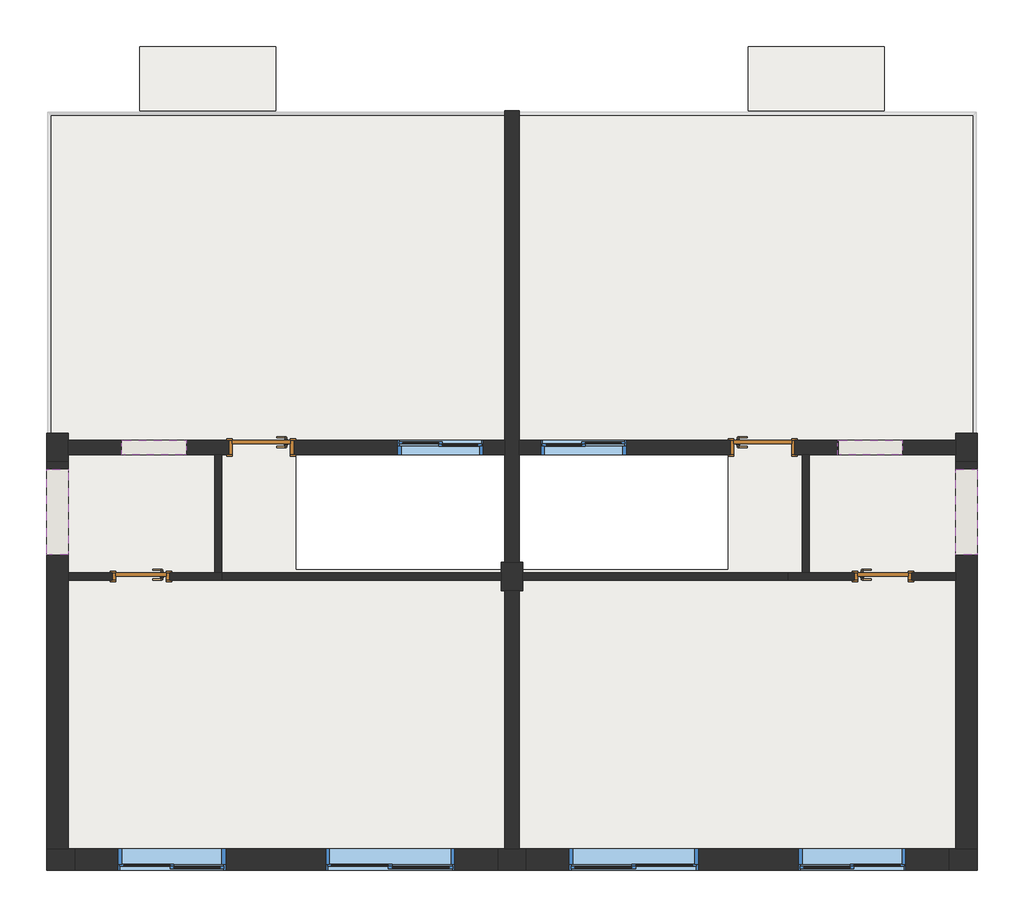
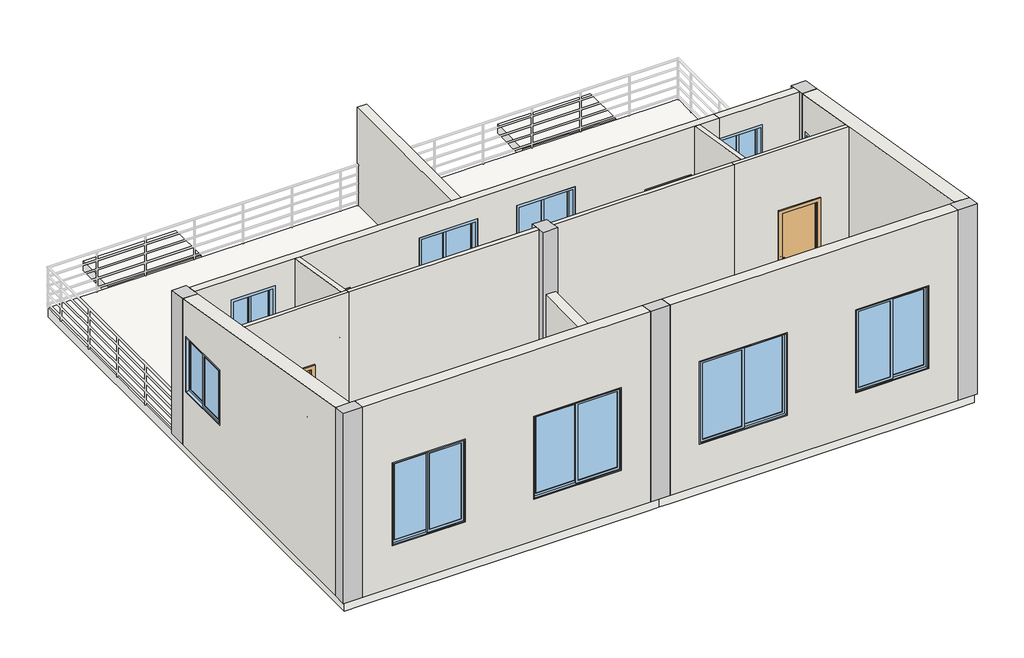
# One storey, part 1 of 2: 12 walls, 10 windows, 6 columns, 4 doors, 2 slabs.
"""IFC4 building model written with IfcOpenShell, lengths in millimetres."""

from ifc_helpers import new_model, si_unit, frame, origin, place, context, project, spatial, polyline, outline, extrude, faceted_brep, transform, mapped, element, save
from components import m1_9f206538, m1_5c1b1160, m3_1d156f18, m3_482f5408, c1_90df00ba, c1_e04ce6eb, c2_95beaf48, c2_33a41daa, c3_90035730, c3_8dbe8f69, c4_cd7c24a5, c4_2700ab05, c5_a65849cb, c5_3e3c06b4

model = new_model("IFC4")

# Units and contexts
model_context = context("Model", 3, world=origin())
ifc_project = project(units=[si_unit("LENGTHUNIT", "METRE", prefix="MILLI")], contexts=[model_context])

# Site, building, storey
site = spatial("IfcSite", under=ifc_project)
building = spatial("IfcBuilding", under=site)
storey = spatial("IfcBuildingStorey", under=building, Name="标高 3", Elevation=6000.0)

# Columns
placement = place(None, origin())
element("IfcColumn", 1, ObjectType="混凝土 - 矩形 - 柱 : Z1", at=placement, inside=storey, context=model_context, shape_type="Brep", body=[
    faceted_brep([(-8339.5311174, -4969.5294667, 6000.0), (-8039.5311174, -4969.5294667, 6000.0), (-7939.5311174, -4969.5294667, 6000.0), (-7939.5311174, -5269.5294667, 6000.0), (-8339.5311174, -5269.5294667, 6000.0), (-8339.5311174, -4969.5294667, 10080.3242392), (-8039.5311174, -4969.5294667, 10080.3242392), (-7939.5311174, -4969.5294667, 10080.3242392), (-7939.5311174, -5269.5294667, 10131.3347697), (-8339.5311174, -5269.5294667, 10131.3347697)], [[[0, 1, 2, 3, 4]], [[2, 1, 0, 5, 6, 7]], [[3, 2, 7, 8]], [[4, 3, 8, 9]], [[0, 4, 9, 5]], [[7, 6, 5, 9, 8]]]),
])
element("IfcColumn", 2, ObjectType="混凝土 - 矩形 - 柱 : Z1", at=placement, inside=storey, context=model_context, shape_type="Brep", body=[
    faceted_brep([(-8039.5311174, 830.4705333, 6000.0), (-8039.5311174, 730.4705333, 6000.0), (-8039.5311174, 530.4705333, 6000.0), (-8039.5311174, 430.4705333, 6000.0), (-8339.5311174, 430.4705333, 6000.0), (-8339.5311174, 830.4705333, 6000.0), (-8039.5311174, 830.4705333, 9094.1206487), (-8039.5311174, 730.4705333, 9111.1241588), (-8039.5311174, 530.4705333, 9145.1311792), (-8039.5311174, 430.4705333, 9162.1346894), (-8339.5311174, 430.4705333, 9162.1346894), (-8339.5311174, 830.4705333, 9094.1206487)], [[[0, 1, 2, 3, 4, 5]], [[3, 2, 1, 0, 6, 7, 8, 9]], [[4, 3, 9, 10]], [[5, 4, 10, 11]], [[0, 5, 11, 6]], [[9, 8, 7, 6, 11, 10]]]),
])
element("IfcColumn", 3, ObjectType="混凝土 - 矩形 - 柱 : Z1", at=placement, inside=storey, context=model_context, shape_type="Brep", body=[
    faceted_brep([(-1689.5311174, -969.5294667, 6000.0), (-1689.5311174, -1119.5294667, 6000.0), (-1689.5311174, -1219.5294667, 6000.0), (-1689.5311174, -1369.5294667, 6000.0), (-1739.5311174, -1369.5294667, 6000.0), (-1939.5311174, -1369.5294667, 6000.0), (-1989.5311174, -1369.5294667, 6000.0), (-1989.5311174, -1219.5294667, 6000.0), (-1989.5311174, -1119.5294667, 6000.0), (-1989.5311174, -969.5294667, 6000.0), (-1939.5311174, -969.5294667, 6000.0), (-1739.5311174, -969.5294667, 6000.0), (-1689.5311174, -969.5294667, 9400.1838319), (-1689.5311174, -1119.5294667, 9425.6890972), (-1689.5311174, -1219.5294667, 9442.6926074), (-1689.5311174, -1369.5294667, 9468.1978727), (-1989.5311174, -1369.5294667, 9468.1978727), (-1989.5311174, -1219.5294667, 9442.6926074), (-1989.5311174, -1119.5294667, 9425.6890972), (-1989.5311174, -969.5294667, 9400.1838319)], [[[0, 1, 2, 3, 4, 5, 6, 7, 8, 9, 10, 11]], [[3, 2, 1, 0, 12, 13, 14, 15]], [[6, 5, 4, 3, 15, 16]], [[9, 8, 7, 6, 16, 17, 18, 19]], [[0, 11, 10, 9, 19, 12]], [[15, 14, 13, 12, 19, 18, 17, 16]]]),
])
element("IfcColumn", 4, ObjectType="混凝土 - 矩形 - 柱 : Z1", at=placement, inside=storey, context=model_context, shape_type="Brep", body=[
    faceted_brep([(-2039.5311174, -4969.5294667, 6000.0), (-1939.5311174, -4969.5294667, 6000.0), (-1739.5311174, -4969.5294667, 6000.0), (-1639.5311174, -4969.5294667, 6000.0), (-1639.5311174, -5269.5294667, 6000.0), (-2039.5311174, -5269.5294667, 6000.0), (-2039.5311174, -4969.5294667, 10080.3242392), (-1639.5311174, -4969.5294667, 10080.3242392), (-1639.5311174, -5269.5294667, 10131.3347697), (-2039.5311174, -5269.5294667, 10131.3347697)], [[[0, 1, 2, 3, 4, 5]], [[3, 2, 1, 0, 6, 7]], [[4, 3, 7, 8]], [[5, 4, 8, 9]], [[0, 5, 9, 6]], [[7, 6, 9, 8]]]),
])
element("IfcColumn", 5, ObjectType="混凝土 - 矩形 - 柱 : Z1", at=placement, inside=storey, context=model_context, shape_type="Brep", body=[
    faceted_brep([(4660.4688826, -4969.5294667, 6000.0), (4660.4688826, -5269.5294667, 6000.0), (4260.4688826, -5269.5294667, 6000.0), (4260.4688826, -4969.5294667, 6000.0), (4360.4688826, -4969.5294667, 6000.0), (4260.4688826, -4969.5294667, 10080.3242392), (4360.4688826, -4969.5294667, 10080.3242392), (4660.4688826, -4969.5294667, 10080.3242392), (4260.4688826, -5269.5294667, 10131.3347697), (4660.4688826, -5269.5294667, 10131.3347697)], [[[0, 1, 2, 3, 4]], [[0, 4, 3, 5, 6, 7]], [[3, 2, 8, 5]], [[2, 1, 9, 8]], [[1, 0, 7, 9]], [[7, 6, 5, 8, 9]]]),
])
element("IfcColumn", 6, ObjectType="混凝土 - 矩形 - 柱 : Z1", at=placement, inside=storey, context=model_context, shape_type="Brep", body=[
    faceted_brep([(4360.4688826, 830.4705333, 6000.0), (4660.4688826, 830.4705333, 6000.0), (4660.4688826, 430.4705333, 6000.0), (4360.4688826, 430.4705333, 6000.0), (4360.4688826, 530.4705333, 6000.0), (4360.4688826, 730.4705333, 6000.0), (4360.4688826, 430.4705333, 9162.1346894), (4360.4688826, 530.4705333, 9145.1311792), (4360.4688826, 730.4705333, 9111.1241588), (4360.4688826, 830.4705333, 9094.1206487), (4660.4688826, 430.4705333, 9162.1346894), (4660.4688826, 830.4705333, 9094.1206487)], [[[0, 1, 2, 3, 4, 5]], [[0, 5, 4, 3, 6, 7, 8, 9]], [[3, 2, 10, 6]], [[2, 1, 11, 10]], [[1, 0, 9, 11]], [[9, 8, 7, 6, 10, 11]]]),
])

# Doors
m1_shape = m1_9f206538(model_context)
element("IfcDoor", 7, ObjectType="单嵌板木门 1 : M1", at=placement, inside=storey, context=model_context, shape_type="MappedRepresentation", body=[
    mapped(m1_shape, transform((3340.4688826, -1169.5294667, 6000.0), x_axis=(1.0, 0.0, 0.0), y_axis=(0.0, 1.0, 0.0), z_axis=(0.0, 0.0, 1.0))),
])
m1_2_shape = m1_5c1b1160(model_context)
element("IfcDoor", 8, ObjectType="单嵌板木门 1 : M1", at=placement, inside=storey, context=model_context, shape_type="MappedRepresentation", body=[
    mapped(m1_2_shape, transform((-7019.5311174, -1169.5294667, 6000.0), x_axis=(-1.0, 0.0, 0.0), y_axis=(0.0, -1.0, 0.0), z_axis=(0.0, 0.0, 1.0))),
])
m3_shape = m3_1d156f18(model_context)
element("IfcDoor", 9, ObjectType="单嵌板木门 1 : M3", at=placement, inside=storey, context=model_context, shape_type="MappedRepresentation", body=[
    mapped(m3_shape, transform((-5339.5311174, 630.4705333, 6000.0), x_axis=(-1.0, 0.0, 0.0), y_axis=(0.0, -1.0, 0.0), z_axis=(0.0, 0.0, 1.0))),
])
m3_2_shape = m3_482f5408(model_context)
element("IfcDoor", 10, ObjectType="单嵌板木门 1 : M3", at=placement, inside=storey, context=model_context, shape_type="MappedRepresentation", body=[
    mapped(m3_2_shape, transform((1660.4688826, 630.4705333, 6000.0), x_axis=(1.0, 0.0, 0.0), y_axis=(0.0, 1.0, 0.0), z_axis=(0.0, 0.0, 1.0))),
])

# Slabs
element("IfcSlab", 11, ObjectType="200大理石地板", at=placement, inside=storey, context=model_context, shape_type="Brep", body=[
    faceted_brep([(-8299.5311174, 5290.4705333, 5800.0), (-8039.5311174, 5290.4705333, 5800.0), (-4089.5311174, 5290.4705333, 5800.0), (-3789.5311174, 5290.4705333, 5800.0), (-1839.5311174, 5290.4705333, 5800.0), (110.4688826, 5290.4705333, 5800.0), (410.4688826, 5290.4705333, 5800.0), (4360.4688826, 5290.4705333, 5800.0), (4620.4688826, 5290.4705333, 5800.0), (4620.4688826, 4930.4705333, 5800.0), (4620.4688826, 830.4705333, 5800.0), (4620.4688826, 430.4705333, 5800.0), (4620.4688826, -4969.5294667, 5800.0), (4620.4688826, -5229.5294667, 5800.0), (4260.4688826, -5229.5294667, 5800.0), (-1639.5311174, -5229.5294667, 5800.0), (-1839.5311174, -5229.5294667, 5800.0), (-2039.5311174, -5229.5294667, 5800.0), (-7939.5311174, -5229.5294667, 5800.0), (-8299.5311174, -5229.5294667, 5800.0), (-8299.5311174, -4969.5294667, 5800.0), (-8299.5311174, 430.4705333, 5800.0), (-8299.5311174, 830.4705333, 5800.0), (-8299.5311174, 4930.4705333, 5800.0), (-1939.5311174, 530.4705333, 5800.0), (-3989.5311174, 530.4705333, 5800.0), (-4854.5311174, 530.4705333, 5800.0), (-4854.5311174, -1069.5294667, 5800.0), (-1989.5311174, -1069.5294667, 5800.0), (-1939.5311174, -1069.5294667, 5800.0), (-1939.5311174, -969.5294667, 5800.0), (-1739.5311174, 530.4705333, 5800.0), (-1739.5311174, -969.5294667, 5800.0), (-1739.5311174, -1069.5294667, 5800.0), (-1689.5311174, -1069.5294667, 5800.0), (1175.4688826, -1069.5294667, 5800.0), (1175.4688826, 530.4705333, 5800.0), (310.4688826, 530.4705333, 5800.0), (-1839.5311174, 5290.4705333, 6000.0), (-3789.5311174, 5290.4705333, 6000.0), (-4089.5311174, 5290.4705333, 6000.0), (-8039.5311174, 5290.4705333, 6000.0), (-8299.5311174, 5290.4705333, 6000.0), (-8299.5311174, 4930.4705333, 6000.0), (-8299.5311174, 830.4705333, 6000.0), (-8299.5311174, 430.4705333, 6000.0), (-8299.5311174, -4969.5294667, 6000.0), (-8299.5311174, -5229.5294667, 6000.0), (-7939.5311174, -5229.5294667, 6000.0), (-2039.5311174, -5229.5294667, 6000.0), (-1839.5311174, -5229.5294667, 6000.0), (-1639.5311174, -5229.5294667, 6000.0), (4260.4688826, -5229.5294667, 6000.0), (4620.4688826, -5229.5294667, 6000.0), (4620.4688826, -4969.5294667, 6000.0), (4620.4688826, 430.4705333, 6000.0), (4620.4688826, 830.4705333, 6000.0), (4620.4688826, 4930.4705333, 6000.0), (4620.4688826, 5290.4705333, 6000.0), (4360.4688826, 5290.4705333, 6000.0), (410.4688826, 5290.4705333, 6000.0), (110.4688826, 5290.4705333, 6000.0), (-4854.5311174, 530.4705333, 6000.0), (-1939.5311174, 530.4705333, 6000.0), (-1939.5311174, -969.5294667, 6000.0), (-1939.5311174, -1069.5294667, 6000.0), (-1989.5311174, -1069.5294667, 6000.0), (-4854.5311174, -1069.5294667, 6000.0), (-1739.5311174, -1069.5294667, 6000.0), (-1739.5311174, -969.5294667, 6000.0), (-1739.5311174, 530.4705333, 6000.0), (1175.4688826, 530.4705333, 6000.0), (1175.4688826, -1069.5294667, 6000.0), (-1689.5311174, -1069.5294667, 6000.0)], [[[0, 1, 2, 3, 4, 5, 6, 7, 8, 9, 10, 11, 12, 13, 14, 15, 16, 17, 18, 19, 20, 21, 22, 23], [24, 25, 26, 27, 28, 29, 30], [31, 32, 33, 34, 35, 36, 37]], [[38, 39, 40, 41, 42, 43, 44, 45, 46, 47, 48, 49, 50, 51, 52, 53, 54, 55, 56, 57, 58, 59, 60, 61], [62, 63, 64, 65, 66, 67], [68, 69, 70, 71, 72, 73]], [[4, 3, 2, 1, 0, 42, 41, 40, 39, 38]], [[8, 7, 6, 5, 4, 38, 61, 60, 59, 58]], [[13, 12, 11, 10, 9, 8, 58, 57, 56, 55, 54, 53]], [[16, 15, 14, 13, 53, 52, 51, 50]], [[19, 18, 17, 16, 50, 49, 48, 47]], [[0, 23, 22, 21, 20, 19, 47, 46, 45, 44, 43, 42]], [[24, 63, 62, 26, 25]], [[26, 62, 67, 27]], [[27, 67, 66, 65, 29, 28]], [[63, 24, 30, 29, 65, 64]], [[31, 70, 69, 68, 33, 32]], [[33, 68, 73, 72, 35, 34]], [[35, 72, 71, 36]], [[70, 31, 37, 36, 71]]]),
])
element("IfcSlab", 12, ObjectType="200大理石地板", at=placement, inside=storey, context=model_context, shape_type="SweptSolid", body=[
    extrude(outline(polyline([(-5139.5311174, 6230.4705333), (-5139.5311174, 5330.4705333), (-7039.5311174, 5330.4705333), (-7039.5311174, 6230.4705333), (-5139.5311174, 6230.4705333)])), frame((0.0, 0.0, 5800.0), z_axis=(0.0, 0.0, 1.0), x_axis=(1.0, 0.0, 0.0)), (0.0, 0.0, 1.0), 200.0),
    extrude(outline(polyline([(1460.4688826, 6230.4705333), (3360.4688826, 6230.4705333), (3360.4688826, 5330.4705333), (1460.4688826, 5330.4705333), (1460.4688826, 6230.4705333)])), frame((0.0, 0.0, 5800.0), z_axis=(0.0, 0.0, 1.0), x_axis=(1.0, 0.0, 0.0)), (0.0, 0.0, 1.0), 200.0),
])

# Walls
element("IfcWall", 13, ObjectType="300外墙", at=placement, inside=storey, context=model_context, shape_type="Brep", body=[
    faceted_brep([(-7939.5311174, -4969.5294667, 6000.0), (-7939.5311174, -4969.5294667, 10080.3242392), (-2039.5311174, -4969.5294667, 10080.3242392), (-2039.5311174, -4969.5294667, 6000.0), (-7339.5311174, -4969.5294667, 8700.0), (-7339.5311174, -4969.5294667, 6900.0), (-5839.5311174, -4969.5294667, 6900.0), (-5839.5311174, -4969.5294667, 8700.0), (-4439.5311174, -4969.5294667, 8700.0), (-4439.5311174, -4969.5294667, 6900.0), (-2639.5311174, -4969.5294667, 6900.0), (-2639.5311174, -4969.5294667, 8700.0), (-7939.5311174, -5269.5294667, 10131.3347697), (-7939.5311174, -5269.5294667, 6000.0), (-2039.5311174, -5269.5294667, 6000.0), (-2039.5311174, -5269.5294667, 10131.3347697), (-7339.5311174, -5269.5294667, 6900.0), (-7339.5311174, -5269.5294667, 8700.0), (-5839.5311174, -5269.5294667, 8700.0), (-5839.5311174, -5269.5294667, 6900.0), (-4439.5311174, -5269.5294667, 6900.0), (-4439.5311174, -5269.5294667, 8700.0), (-2639.5311174, -5269.5294667, 8700.0), (-2639.5311174, -5269.5294667, 6900.0), (-7939.5311174, -5229.5294667, 6000.0), (-2039.5311174, -5229.5294667, 6000.0)], [[[0, 1, 2, 3], [4, 5, 6, 7], [8, 9, 10, 11]], [[12, 13, 14, 15], [16, 17, 18, 19], [20, 21, 22, 23]], [[13, 24, 0, 3, 25, 14]], [[1, 0, 24, 13, 12]], [[3, 2, 15, 14, 25]], [[5, 4, 17, 16]], [[6, 5, 16, 19]], [[7, 6, 19, 18]], [[4, 7, 18, 17]], [[9, 8, 21, 20]], [[10, 9, 20, 23]], [[11, 10, 23, 22]], [[8, 11, 22, 21]], [[1, 12, 15, 2]]]),
])
element("IfcWall", 14, ObjectType="300外墙", at=placement, inside=storey, context=model_context, shape_type="Brep", body=[
    faceted_brep([(-8039.5311174, -4969.5294667, 10080.3242392), (-8039.5311174, -4969.5294667, 6000.0), (-8039.5311174, -1219.5294667, 6000.0), (-8039.5311174, -1119.5294667, 6000.0), (-8039.5311174, 430.4705333, 6000.0), (-8039.5311174, 430.4705333, 9162.1346894), (-8039.5311174, -1119.5294667, 9425.6890972), (-8039.5311174, -1219.5294667, 9442.6926074), (-8039.5311174, 330.4705333, 8400.0), (-8039.5311174, 330.4705333, 7200.0), (-8039.5311174, -869.5294667, 7200.0), (-8039.5311174, -869.5294667, 8400.0), (-8339.5311174, -4969.5294667, 6000.0), (-8339.5311174, -4969.5294667, 10080.3242392), (-8339.5311174, 430.4705333, 9162.1346894), (-8339.5311174, 430.4705333, 6000.0), (-8339.5311174, 330.4705333, 7200.0), (-8339.5311174, 330.4705333, 8400.0), (-8339.5311174, -869.5294667, 8400.0), (-8339.5311174, -869.5294667, 7200.0), (-8299.5311174, -4969.5294667, 6000.0), (-8299.5311174, 430.4705333, 6000.0)], [[[0, 1, 2, 3, 4, 5, 6, 7], [8, 9, 10, 11]], [[12, 13, 14, 15], [16, 17, 18, 19]], [[1, 20, 12, 15, 21, 4, 3, 2]], [[9, 8, 17, 16]], [[10, 9, 16, 19]], [[11, 10, 19, 18]], [[8, 11, 18, 17]], [[12, 20, 1, 0, 13]], [[5, 4, 21, 15, 14]], [[13, 0, 7, 6, 5, 14]]]),
])
element("IfcWall", 15, ObjectType="300外墙", at=placement, inside=storey, context=model_context, shape_type="Brep", body=[
    faceted_brep([(-1639.5311174, -5269.5294667, 10131.3347697), (-1639.5311174, -5269.5294667, 6000.0), (4260.4688826, -5269.5294667, 6000.0), (4260.4688826, -5269.5294667, 10131.3347697), (760.4688826, -5269.5294667, 8700.0), (760.4688826, -5269.5294667, 6900.0), (-1039.5311174, -5269.5294667, 6900.0), (-1039.5311174, -5269.5294667, 8700.0), (3660.4688826, -5269.5294667, 8700.0), (3660.4688826, -5269.5294667, 6900.0), (2160.4688826, -5269.5294667, 6900.0), (2160.4688826, -5269.5294667, 8700.0), (-1639.5311174, -4969.5294667, 6000.0), (-1639.5311174, -4969.5294667, 10080.3242392), (4260.4688826, -4969.5294667, 10080.3242392), (4260.4688826, -4969.5294667, 6000.0), (760.4688826, -4969.5294667, 6900.0), (760.4688826, -4969.5294667, 8700.0), (-1039.5311174, -4969.5294667, 8700.0), (-1039.5311174, -4969.5294667, 6900.0), (3660.4688826, -4969.5294667, 6900.0), (3660.4688826, -4969.5294667, 8700.0), (2160.4688826, -4969.5294667, 8700.0), (2160.4688826, -4969.5294667, 6900.0), (-1639.5311174, -5229.5294667, 6000.0), (4260.4688826, -5229.5294667, 6000.0)], [[[0, 1, 2, 3], [4, 5, 6, 7], [8, 9, 10, 11]], [[12, 13, 14, 15], [16, 17, 18, 19], [20, 21, 22, 23]], [[1, 24, 12, 15, 25, 2]], [[1, 0, 13, 12, 24]], [[3, 2, 25, 15, 14]], [[5, 4, 17, 16]], [[6, 5, 16, 19]], [[7, 6, 19, 18]], [[4, 7, 18, 17]], [[9, 8, 21, 20]], [[10, 9, 20, 23]], [[11, 10, 23, 22]], [[8, 11, 22, 21]], [[13, 0, 3, 14]]]),
])
element("IfcWall", 16, ObjectType="300外墙", at=placement, inside=storey, context=model_context, shape_type="Brep", body=[
    faceted_brep([(4660.4688826, -4969.5294667, 10080.3242392), (4660.4688826, -4969.5294667, 6000.0), (4660.4688826, 430.4705333, 6000.0), (4660.4688826, 430.4705333, 9162.1346894), (4660.4688826, 330.4705333, 8400.0), (4660.4688826, 330.4705333, 7200.0), (4660.4688826, -869.5294667, 7200.0), (4660.4688826, -869.5294667, 8400.0), (4360.4688826, -4969.5294667, 6000.0), (4360.4688826, -4969.5294667, 10080.3242392), (4360.4688826, -1219.5294667, 9442.6926074), (4360.4688826, -1119.5294667, 9425.6890972), (4360.4688826, 430.4705333, 9162.1346894), (4360.4688826, 430.4705333, 6000.0), (4360.4688826, -1119.5294667, 6000.0), (4360.4688826, -1219.5294667, 6000.0), (4360.4688826, 330.4705333, 7200.0), (4360.4688826, 330.4705333, 8400.0), (4360.4688826, -869.5294667, 8400.0), (4360.4688826, -869.5294667, 7200.0), (4620.4688826, -4969.5294667, 6000.0), (4620.4688826, 430.4705333, 6000.0)], [[[0, 1, 2, 3], [4, 5, 6, 7]], [[8, 9, 10, 11, 12, 13, 14, 15], [16, 17, 18, 19]], [[1, 20, 8, 15, 14, 13, 21, 2]], [[5, 4, 17, 16]], [[6, 5, 16, 19]], [[7, 6, 19, 18]], [[4, 7, 18, 17]], [[8, 20, 1, 0, 9]], [[3, 2, 21, 13, 12]], [[9, 0, 3, 12, 11, 10]]]),
])
element("IfcWall", 17, ObjectType="200内墙", at=placement, inside=storey, context=model_context, shape_type="Brep", body=[
    faceted_brep([(-1739.5311174, 5330.4705333, 6000.0), (-1739.5311174, 5330.4705333, 8100.0), (-1739.5311174, 730.4705333, 8100.0), (-1739.5311174, 530.4705333, 8100.0), (-1739.5311174, -969.5294667, 8100.0), (-1739.5311174, -969.5294667, 6000.0), (-1739.5311174, 530.4705333, 6000.0), (-1739.5311174, 730.4705333, 6000.0), (-1939.5311174, 5330.4705333, 8100.0), (-1939.5311174, 5330.4705333, 6000.0), (-1939.5311174, 730.4705333, 6000.0), (-1939.5311174, 530.4705333, 6000.0), (-1939.5311174, -969.5294667, 6000.0), (-1939.5311174, -969.5294667, 8100.0), (-1939.5311174, 530.4705333, 8100.0), (-1939.5311174, 730.4705333, 8100.0)], [[[0, 1, 2, 3, 4, 5, 6, 7]], [[8, 9, 10, 11, 12, 13, 14, 15]], [[9, 0, 7, 6, 5, 12, 11, 10]], [[1, 0, 9, 8]], [[1, 8, 15, 14, 13, 4, 3, 2]], [[5, 4, 13, 12]]]),
    faceted_brep([(-1739.5311174, -4969.5294667, 8100.0), (-1739.5311174, -4969.5294667, 6000.0), (-1739.5311174, -1369.5294667, 6000.0), (-1739.5311174, -1369.5294667, 8100.0), (-1939.5311174, -4969.5294667, 6000.0), (-1939.5311174, -4969.5294667, 8100.0), (-1939.5311174, -1369.5294667, 8100.0), (-1939.5311174, -1369.5294667, 6000.0)], [[[0, 1, 2, 3]], [[4, 5, 6, 7]], [[1, 4, 7, 2]], [[5, 0, 3, 6]], [[3, 2, 7, 6]], [[4, 1, 0, 5]]]),
])
element("IfcWall", 18, ObjectType="100内墙", at=placement, inside=storey, context=model_context, shape_type="Brep", body=[
    faceted_brep([(-8039.5311174, -1219.5294667, 9442.6926074), (-8039.5311174, -1219.5294667, 6000.0), (-7419.5311174, -1219.5294667, 6000.0), (-7419.5311174, -1219.5294667, 8100.0), (-6619.5311174, -1219.5294667, 8100.0), (-6619.5311174, -1219.5294667, 6000.0), (-5889.5311174, -1219.5294667, 6000.0), (-5889.5311174, -1219.5294667, 9442.6926074), (-8039.5311174, -1119.5294667, 6000.0), (-8039.5311174, -1119.5294667, 9425.6890972), (-5989.5311174, -1119.5294667, 9425.6890972), (-5889.5311174, -1119.5294667, 9425.6890972), (-5889.5311174, -1119.5294667, 6000.0), (-5989.5311174, -1119.5294667, 6000.0), (-6619.5311174, -1119.5294667, 6000.0), (-6619.5311174, -1119.5294667, 8100.0), (-7419.5311174, -1119.5294667, 8100.0), (-7419.5311174, -1119.5294667, 6000.0)], [[[0, 1, 2, 3, 4, 5, 6, 7]], [[8, 9, 10, 11, 12, 13, 14, 15, 16, 17]], [[1, 8, 17, 2]], [[12, 6, 5, 14, 13]], [[1, 0, 9, 8]], [[7, 6, 12, 11]], [[16, 3, 2, 17]], [[3, 16, 15, 4]], [[4, 15, 14, 5]], [[0, 7, 11, 10, 9]]]),
])
element("IfcWall", 19, ObjectType="100内墙", at=placement, inside=storey, context=model_context, shape_type="SweptSolid", body=[
    extrude(outline(polyline([(530.4705333, 6000.0), (-1119.5294667, 6000.0), (-1119.5294667, 9425.6890972), (530.4705333, 9145.1311792), (530.4705333, 6000.0)])), frame((-5989.5311174, 0.0, 0.0), z_axis=(1.0, 0.0, 0.0), x_axis=(0.0, 1.0, 0.0)), (0.0, 0.0, 1.0), 100.0),
])
element("IfcWall", 20, ObjectType="100内墙", at=placement, inside=storey, context=model_context, shape_type="SweptSolid", body=[
    extrude(outline(polyline([(530.4705333, 6000.0), (-1119.5294667, 6000.0), (-1119.5294667, 9425.6890972), (530.4705333, 9145.1311792), (530.4705333, 6000.0)])), frame((2210.4688826, 0.0, 0.0), z_axis=(1.0, 0.0, 0.0), x_axis=(0.0, 1.0, 0.0)), (0.0, 0.0, 1.0), 100.0),
])
element("IfcWall", 21, ObjectType="200内墙", at=placement, inside=storey, context=model_context, shape_type="Brep", body=[
    faceted_brep([(-8039.5311174, 530.4705333, 6000.0), (-5989.5311174, 530.4705333, 6000.0), (-5889.5311174, 530.4705333, 6000.0), (-5789.5311174, 530.4705333, 6000.0), (-5789.5311174, 530.4705333, 8100.0), (-4889.5311174, 530.4705333, 8100.0), (-4889.5311174, 530.4705333, 6000.0), (-1939.5311174, 530.4705333, 6000.0), (-1939.5311174, 530.4705333, 8100.0), (-1739.5311174, 530.4705333, 8100.0), (-1739.5311174, 530.4705333, 6000.0), (1210.4688826, 530.4705333, 6000.0), (1210.4688826, 530.4705333, 8100.0), (2110.4688826, 530.4705333, 8100.0), (2110.4688826, 530.4705333, 6000.0), (2210.4688826, 530.4705333, 6000.0), (2310.4688826, 530.4705333, 6000.0), (2714.6875263, 530.4705333, 6000.0), (2714.6875263, 530.4705333, 7200.0), (2710.4688826, 530.4705333, 7200.0), (2710.4688826, 530.4705333, 8700.0), (2714.6875263, 530.4705333, 8700.0), (2714.6875263, 530.4705333, 9145.1311792), (2310.4688826, 530.4705333, 9145.1311792), (2210.4688826, 530.4705333, 9145.1311792), (-5889.5311174, 530.4705333, 9145.1311792), (-5989.5311174, 530.4705333, 9145.1311792), (-8039.5311174, 530.4705333, 9145.1311792), (-2239.5311174, 530.4705333, 8700.0), (-2239.5311174, 530.4705333, 6900.0), (-3439.5311174, 530.4705333, 6900.0), (-3439.5311174, 530.4705333, 8700.0), (-6389.5311174, 530.4705333, 8700.0), (-6389.5311174, 530.4705333, 7200.0), (-7289.5311174, 530.4705333, 7200.0), (-7289.5311174, 530.4705333, 8700.0), (-1439.5311174, 530.4705333, 6900.0), (-1439.5311174, 530.4705333, 8700.0), (-239.5311174, 530.4705333, 8700.0), (-239.5311174, 530.4705333, 6900.0), (-5789.5311174, 730.4705333, 6000.0), (-8039.5311174, 730.4705333, 6000.0), (-8039.5311174, 730.4705333, 9111.1241588), (2714.6875263, 730.4705333, 9111.1241588), (2714.6875263, 730.4705333, 8700.0), (2710.4688826, 730.4705333, 8700.0), (2710.4688826, 730.4705333, 7200.0), (2714.6875263, 730.4705333, 7200.0), (2714.6875263, 730.4705333, 6000.0), (2110.4688826, 730.4705333, 6000.0), (2110.4688826, 730.4705333, 8100.0), (1210.4688826, 730.4705333, 8100.0), (1210.4688826, 730.4705333, 6000.0), (-1739.5311174, 730.4705333, 6000.0), (-1739.5311174, 730.4705333, 8100.0), (-1939.5311174, 730.4705333, 8100.0), (-1939.5311174, 730.4705333, 6000.0), (-4889.5311174, 730.4705333, 6000.0), (-4889.5311174, 730.4705333, 8100.0), (-5789.5311174, 730.4705333, 8100.0), (-2239.5311174, 730.4705333, 6900.0), (-2239.5311174, 730.4705333, 8700.0), (-3439.5311174, 730.4705333, 8700.0), (-3439.5311174, 730.4705333, 6900.0), (-6389.5311174, 730.4705333, 7200.0), (-6389.5311174, 730.4705333, 8700.0), (-7289.5311174, 730.4705333, 8700.0), (-7289.5311174, 730.4705333, 7200.0), (-1439.5311174, 730.4705333, 8700.0), (-1439.5311174, 730.4705333, 6900.0), (-239.5311174, 730.4705333, 6900.0), (-239.5311174, 730.4705333, 8700.0)], [[[0, 1, 2, 3, 4, 5, 6, 7, 8, 9, 10, 11, 12, 13, 14, 15, 16, 17, 18, 19, 20, 21, 22, 23, 24, 25, 26, 27], [28, 29, 30, 31], [32, 33, 34, 35], [36, 37, 38, 39]], [[40, 41, 42, 43, 44, 45, 46, 47, 48, 49, 50, 51, 52, 53, 54, 55, 56, 57, 58, 59], [60, 61, 62, 63], [64, 65, 66, 67], [68, 69, 70, 71]], [[48, 17, 16, 15, 14, 49]], [[6, 57, 56, 7]], [[3, 2, 1, 0, 41, 40]], [[52, 11, 10, 53]], [[17, 48, 47, 18]], [[22, 21, 44, 43]], [[9, 54, 53, 10]], [[55, 8, 7, 56]], [[54, 9, 8, 55]], [[29, 28, 61, 60]], [[30, 29, 60, 63]], [[31, 30, 63, 62]], [[28, 31, 62, 61]], [[33, 32, 65, 64]], [[34, 33, 64, 67]], [[35, 34, 67, 66]], [[32, 35, 66, 65]], [[59, 4, 3, 40]], [[4, 59, 58, 5]], [[5, 58, 57, 6]], [[13, 50, 49, 14]], [[50, 13, 12, 51]], [[51, 12, 11, 52]], [[45, 20, 19, 46]], [[46, 19, 18, 47]], [[20, 45, 44, 21]], [[69, 68, 37, 36]], [[70, 69, 36, 39]], [[71, 70, 39, 38]], [[68, 71, 38, 37]], [[0, 27, 42, 41]], [[27, 26, 25, 24, 23, 22, 43, 42]]]),
])
element("IfcWall", 22, ObjectType="200内墙", at=placement, inside=storey, context=model_context, shape_type="Brep", body=[
    faceted_brep([(2714.6875263, 530.4705333, 6000.0), (4360.4688826, 530.4705333, 6000.0), (4360.4688826, 530.4705333, 9145.1311792), (2714.6875263, 530.4705333, 9145.1311792), (2714.6875263, 530.4705333, 8700.0), (3610.4688826, 530.4705333, 8700.0), (3610.4688826, 530.4705333, 7200.0), (2714.6875263, 530.4705333, 7200.0), (4360.4688826, 730.4705333, 6000.0), (2714.6875263, 730.4705333, 6000.0), (2714.6875263, 730.4705333, 7200.0), (3610.4688826, 730.4705333, 7200.0), (3610.4688826, 730.4705333, 8700.0), (2714.6875263, 730.4705333, 8700.0), (2714.6875263, 730.4705333, 9111.1241588), (4360.4688826, 730.4705333, 9111.1241588)], [[[0, 1, 2, 3, 4, 5, 6, 7]], [[8, 9, 10, 11, 12, 13, 14, 15]], [[1, 0, 9, 8]], [[9, 0, 7, 10]], [[3, 14, 13, 4]], [[6, 11, 10, 7]], [[11, 6, 5, 12]], [[12, 5, 4, 13]], [[2, 1, 8, 15]], [[3, 2, 15, 14]]]),
])
element("IfcWall", 23, ObjectType="100内墙", at=placement, inside=storey, context=model_context, shape_type="SweptSolid", body=[
    extrude(outline(polyline([(-1219.5294667, 6000.0), (-1219.5294667, 9442.6926074), (-1119.5294667, 9425.6890972), (-1119.5294667, 6000.0), (-1219.5294667, 6000.0)])), frame((-1689.5311174, 0.0, 0.0), z_axis=(1.0, 0.0, 0.0), x_axis=(0.0, 1.0, 0.0)), (0.0, 0.0, 1.0), 3701.207348),
    extrude(outline(polyline([(-1219.5294667, 6000.0), (-1219.5294667, 9442.6926074), (-1119.5294667, 9425.6890972), (-1119.5294667, 6000.0), (-1219.5294667, 6000.0)])), frame((-5889.5311174, 0.0, 0.0), z_axis=(1.0, 0.0, 0.0), x_axis=(0.0, 1.0, 0.0)), (0.0, 0.0, 1.0), 3900.0),
])
element("IfcWall", 24, ObjectType="100内墙", at=placement, inside=storey, context=model_context, shape_type="Brep", body=[
    faceted_brep([(2011.6762306, -1219.5294667, 9442.6926074), (2011.6762306, -1219.5294667, 6000.0), (2940.4688826, -1219.5294667, 6000.0), (2940.4688826, -1219.5294667, 8100.0), (3740.4688826, -1219.5294667, 8100.0), (3740.4688826, -1219.5294667, 6000.0), (4360.4688826, -1219.5294667, 6000.0), (4360.4688826, -1219.5294667, 9442.6926074), (2011.6762306, -1119.5294667, 6000.0), (2011.6762306, -1119.5294667, 9425.6890972), (2210.4688826, -1119.5294667, 9425.6890972), (2310.4688826, -1119.5294667, 9425.6890972), (4360.4688826, -1119.5294667, 9425.6890972), (4360.4688826, -1119.5294667, 6000.0), (3740.4688826, -1119.5294667, 6000.0), (3740.4688826, -1119.5294667, 8100.0), (2940.4688826, -1119.5294667, 8100.0), (2940.4688826, -1119.5294667, 6000.0), (2310.4688826, -1119.5294667, 6000.0), (2210.4688826, -1119.5294667, 6000.0)], [[[0, 1, 2, 3, 4, 5, 6, 7]], [[8, 9, 10, 11, 12, 13, 14, 15, 16, 17, 18, 19]], [[13, 6, 5, 14]], [[1, 8, 19, 18, 17, 2]], [[1, 0, 9, 8]], [[7, 6, 13, 12]], [[4, 15, 14, 5]], [[15, 4, 3, 16]], [[16, 3, 2, 17]], [[0, 7, 12, 11, 10, 9]]]),
])

# Windows
c1_shape = c1_90df00ba(model_context)
element("IfcWindow", 25, ObjectType="推拉窗6 : C1", at=placement, inside=storey, context=model_context, shape_type="MappedRepresentation", body=[
    mapped(c1_shape, transform((-6580.0061174, -5186.4029042, 6000.0), x_axis=(-1.0, 0.0, 0.0), y_axis=(0.0, -1.0, 0.0), z_axis=(0.0, 0.0, 1.0))),
])
c1_2_shape = c1_e04ce6eb(model_context)
element("IfcWindow", 26, ObjectType="推拉窗6 : C1", at=placement, inside=storey, context=model_context, shape_type="MappedRepresentation", body=[
    mapped(c1_2_shape, transform((2900.9438826, -5186.4029042, 6000.0), x_axis=(1.0, 0.0, 0.0), y_axis=(0.0, 1.0, 0.0), z_axis=(0.0, 0.0, 1.0))),
])
c2_shape = c2_95beaf48(model_context)
element("IfcWindow", 27, ObjectType="推拉窗6 : C2", at=placement, inside=storey, context=model_context, shape_type="MappedRepresentation", body=[
    mapped(c2_shape, transform((-2849.0561174, 697.3439708, 6000.0), x_axis=(1.0, 0.0, 0.0), y_axis=(0.0, 1.0, 0.0), z_axis=(0.0, 0.0, 1.0))),
])
c2_2_shape = c2_33a41daa(model_context)
element("IfcWindow", 28, ObjectType="推拉窗6 : C2", at=placement, inside=storey, context=model_context, shape_type="MappedRepresentation", body=[
    mapped(c2_2_shape, transform((-830.0061174, 697.3439708, 6000.0), x_axis=(-1.0, 0.0, 0.0), y_axis=(0.0, -1.0, 0.0), z_axis=(0.0, 0.0, 1.0))),
])
c3_shape = c3_90035730(model_context)
element("IfcWindow", 29, ObjectType="推拉窗6 : C3", at=placement, inside=storey, context=model_context, shape_type="MappedRepresentation", body=[
    mapped(c3_shape, transform((-3530.0061174, -5186.4029042, 6000.0), x_axis=(-1.0, 0.0, 0.0), y_axis=(0.0, -1.0, 0.0), z_axis=(0.0, 0.0, 1.0))),
])
c3_2_shape = c3_8dbe8f69(model_context)
element("IfcWindow", 30, ObjectType="推拉窗6 : C3", at=placement, inside=storey, context=model_context, shape_type="MappedRepresentation", body=[
    mapped(c3_2_shape, transform((-149.0561174, -5186.4029042, 6000.0), x_axis=(1.0, 0.0, 0.0), y_axis=(0.0, 1.0, 0.0), z_axis=(0.0, 0.0, 1.0))),
])
c4_shape = c4_cd7c24a5(model_context)
element("IfcWindow", 31, ObjectType="推拉窗6 : C4", at=placement, inside=storey, context=model_context, shape_type="MappedRepresentation", body=[
    mapped(c4_shape, transform((-6849.0561174, 697.3439708, 6300.0), x_axis=(1.0, 0.0, 0.0), y_axis=(0.0, 1.0, 0.0), z_axis=(0.0, 0.0, 1.0))),
])
c4_2_shape = c4_2700ab05(model_context)
element("IfcWindow", 32, ObjectType="推拉窗6 : C4", at=placement, inside=storey, context=model_context, shape_type="MappedRepresentation", body=[
    mapped(c4_2_shape, transform((3169.9938826, 697.3439708, 6300.0), x_axis=(-1.0, 0.0, 0.0), y_axis=(0.0, -1.0, 0.0), z_axis=(0.0, 0.0, 1.0))),
])
c5_shape = c5_a65849cb(model_context)
element("IfcWindow", 33, ObjectType="推拉窗6 : C5", at=placement, inside=storey, context=model_context, shape_type="MappedRepresentation", body=[
    mapped(c5_shape, transform((-8256.4045549, -279.0544667, 6300.0), x_axis=(0.0, 1.0, 0.0), y_axis=(-1.0, 0.0, 0.0), z_axis=(0.0, 0.0, 1.0))),
])
c5_2_shape = c5_3e3c06b4(model_context)
element("IfcWindow", 34, ObjectType="推拉窗6 : C5", at=placement, inside=storey, context=model_context, shape_type="MappedRepresentation", body=[
    mapped(c5_2_shape, transform((4577.3423201, -279.0544667, 6300.0), x_axis=(0.0, 1.0, 0.0), y_axis=(-1.0, 0.0, 0.0), z_axis=(0.0, 0.0, 1.0))),
])

save(model, "model.ifc")
